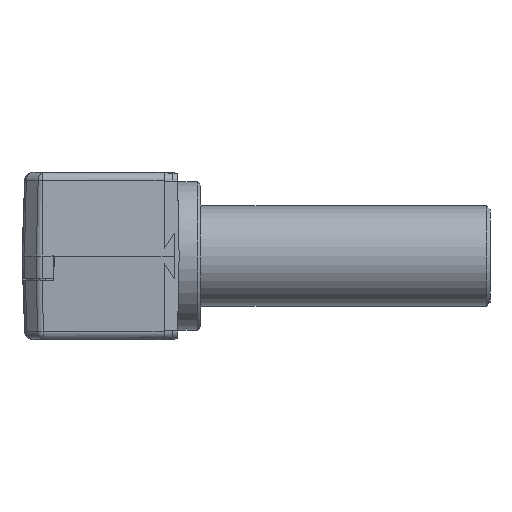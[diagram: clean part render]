
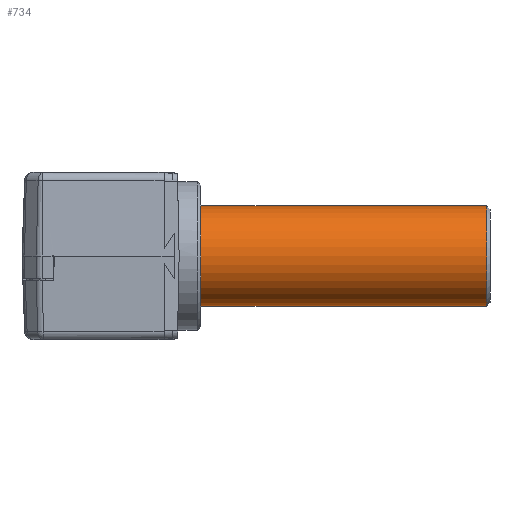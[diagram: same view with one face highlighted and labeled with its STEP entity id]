
A CAD part, left-side view. The second image highlights one B-rep face of the part: STEP entity #734.
In plain terms, the highlighted cylindrical face has radius 3 mm (diameter 6 mm), a full revolution.
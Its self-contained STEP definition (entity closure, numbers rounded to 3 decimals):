
#734=ADVANCED_FACE('',(#1628,#1629),#1630,.T.);
#1628=FACE_OUTER_BOUND('',#2780,.T.);
#1629=FACE_OUTER_BOUND('',#2781,.T.);
#1630=CYLINDRICAL_SURFACE('',#2782,3.0);
#2780=EDGE_LOOP('',(#4876));
#2781=EDGE_LOOP('',(#4877));
#2782=AXIS2_PLACEMENT_3D('',#4878,#4879,#4880);
#4876=ORIENTED_EDGE('',*,*,#7500,.T.);
#4877=ORIENTED_EDGE('',*,*,#7523,.T.);
#4878=CARTESIAN_POINT('',(0.0,-19.845,0.0));
#4879=DIRECTION('',(-0.0,1.0,0.0));
#4880=DIRECTION('',(1.0,0.0,0.0));
#7500=EDGE_CURVE('',#9151,#9151,#9152,.T.);
#7523=EDGE_CURVE('',#9186,#9186,#9187,.T.);
#9151=VERTEX_POINT('',#11633);
#9152=CIRCLE('',#11634,3.0);
#9186=VERTEX_POINT('',#11700);
#9187=CIRCLE('',#11701,3.0);
#11633=CARTESIAN_POINT('',(-3.0,-1.6,0.0));
#11634=AXIS2_PLACEMENT_3D('',#13813,#13814,#13815);
#11700=CARTESIAN_POINT('',(-3.0,-18.7,0.));
#11701=AXIS2_PLACEMENT_3D('',#13832,#13833,#13834);
#13813=CARTESIAN_POINT('',(0.0,-1.6,0.0));
#13814=DIRECTION('',(0.0,-1.0,0.0));
#13815=DIRECTION('',(-1.0,0.0,0.0));
#13832=CARTESIAN_POINT('',(0.0,-18.7,0.0));
#13833=DIRECTION('',(0.0,1.0,0.0));
#13834=DIRECTION('',(-1.0,0.0,0.));
